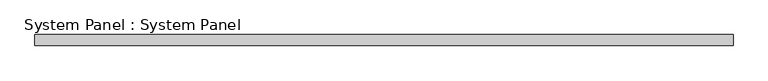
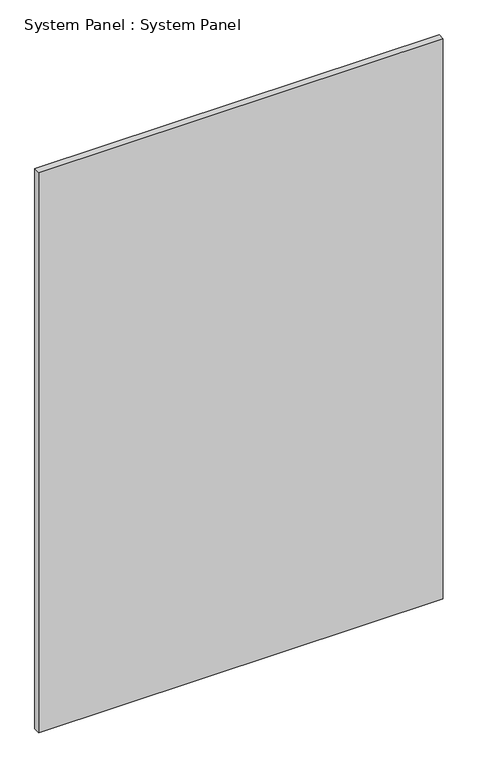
"""IFC4 building model written with IfcOpenShell, lengths in millimetres: plate geometry, System Panel : System Panel."""

from ifc_helpers import new_model, si_unit, origin, origin_with_axes, place, context, project, spatial, polyline, outline, extrude, source, transform, mapped, element, save


def system_panel_system_panel_667b8a08(model_context):
    return source(origin(), model_context, "Body", "SweptSolid", [
        extrude(outline(polyline([(800.1, 19.05), (-800.1, 19.05), (-800.1, 44.45), (800.1, 44.45), (800.1, 19.05)])), origin_with_axes(), (0.0, 0.0, 1.0), 2343.15),
    ])


if __name__ == "__main__":
    model = new_model("IFC4")
    model_context = context("Model", 3, world=origin())
    ifc_project = project(units=[si_unit("LENGTHUNIT", "METRE", prefix="MILLI")], contexts=[model_context])
    site = spatial("IfcSite", under=ifc_project)
    building = spatial("IfcBuilding", under=site)
    placement = place(None, origin())
    system_panel_system_panel_shape = system_panel_system_panel_667b8a08(model_context)
    element("IfcPlate", 1, ObjectType="System Panel : System Panel", at=placement, inside=building, context=model_context, shape_type="MappedRepresentation", body=[
        mapped(system_panel_system_panel_shape, transform((0.0, 0.0, 0.0), x_axis=(1.0, 0.0, 0.0), y_axis=(0.0, 1.0, 0.0), z_axis=(0.0, 0.0, 1.0))),
    ])
    save(model, "model.ifc")
